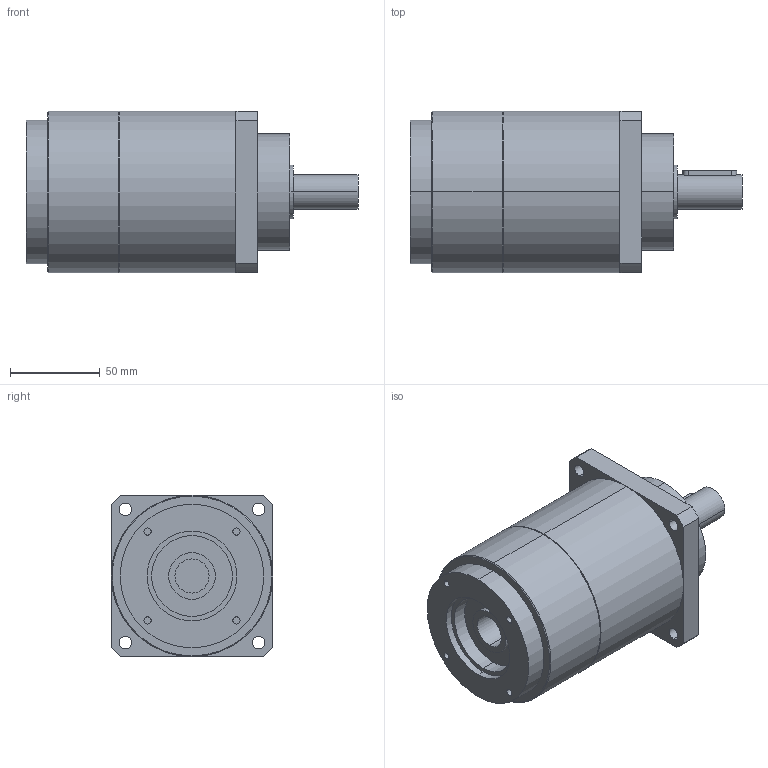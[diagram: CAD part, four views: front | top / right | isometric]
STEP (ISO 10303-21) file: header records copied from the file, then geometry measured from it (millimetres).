
FILE_DESCRIPTION(('CoCreate Modeling STEP Export'),'2;1');
FILE_NAME('GPT90_ig-9-12-16-20-25-28-35-40-50-70-100_19_B5T_19_P22.stp','2015-02-04T11:33:11',(''),(''),'CoCreate Modeling STEP processor for AP214 (Solid Model)','CoCreate Modeling 16.00C 25-Feb-2009 (C) Parametric Technology GmbH','');
FILE_SCHEMA(('AUTOMOTIVE_DESIGN { 1 0 10303 214 1 1 1 1 }'));
Length unit declared in the file: millimetre
Products named in the file (2): GPT90_ig-9-12-16-20-25-28-35-40-50-70-100_19_B5T_19_P22
Assembly tree (1 placements, depth 2):
  GPT90_ig-9-12-16-20-25-28-35-40-50-70-100_19_B5T_19_P22
    GPT90_ig-9-12-16-20-25-28-35-40-50-70-100_19_B5T_19_P22
Bounding box: 185 x 90 x 90 mm (x, y, z)
Volume: 864776.4 mm3; surface area: 65032.6 mm2
Topology: 1 solids, 1 shells, 75 faces, 190 edges, 131 vertices
Faces by surface type: cylinder 44, plane 27, cone 4
Entity records: 2388 total; most frequent: CARTESIAN_POINT 704, ORIENTED_EDGE 380, DIRECTION 282, EDGE_CURVE 190, VERTEX_POINT 131, AXIS2_PLACEMENT_3D 106, EDGE_LOOP 97, FACE_OUTER_BOUND 75
